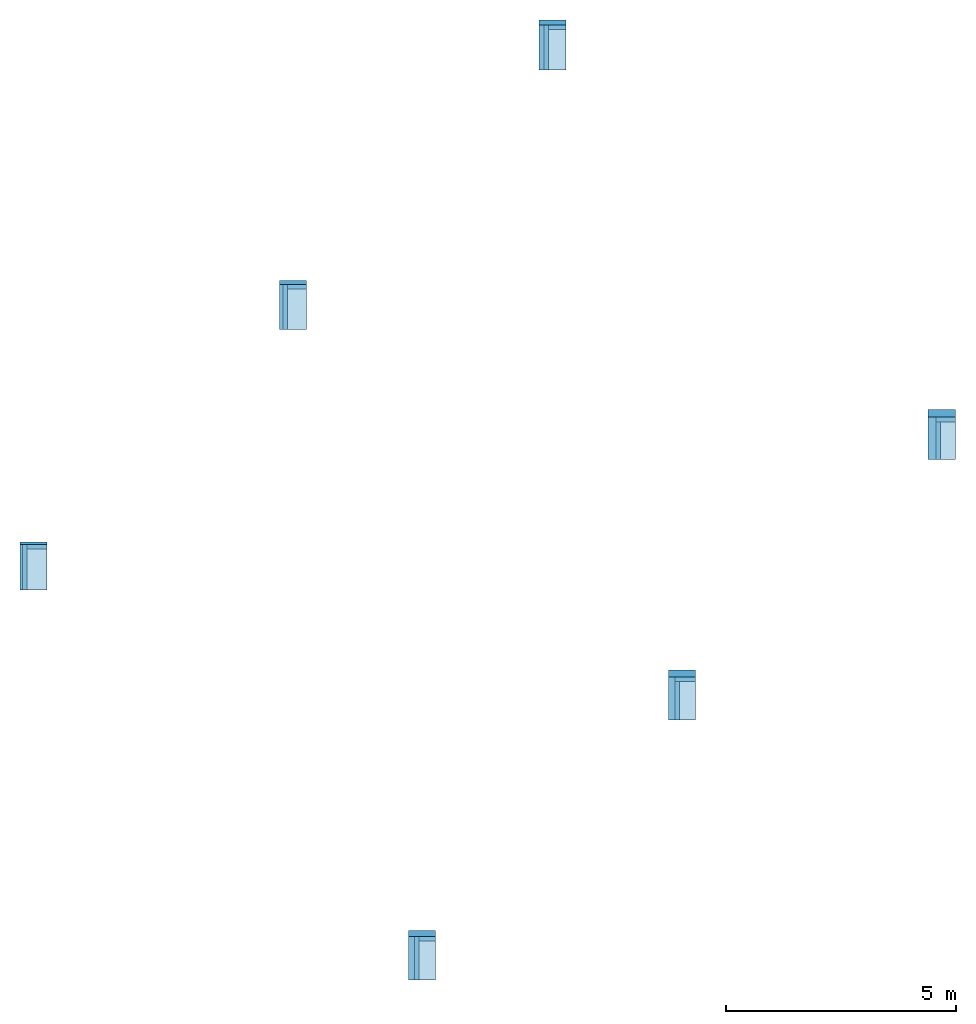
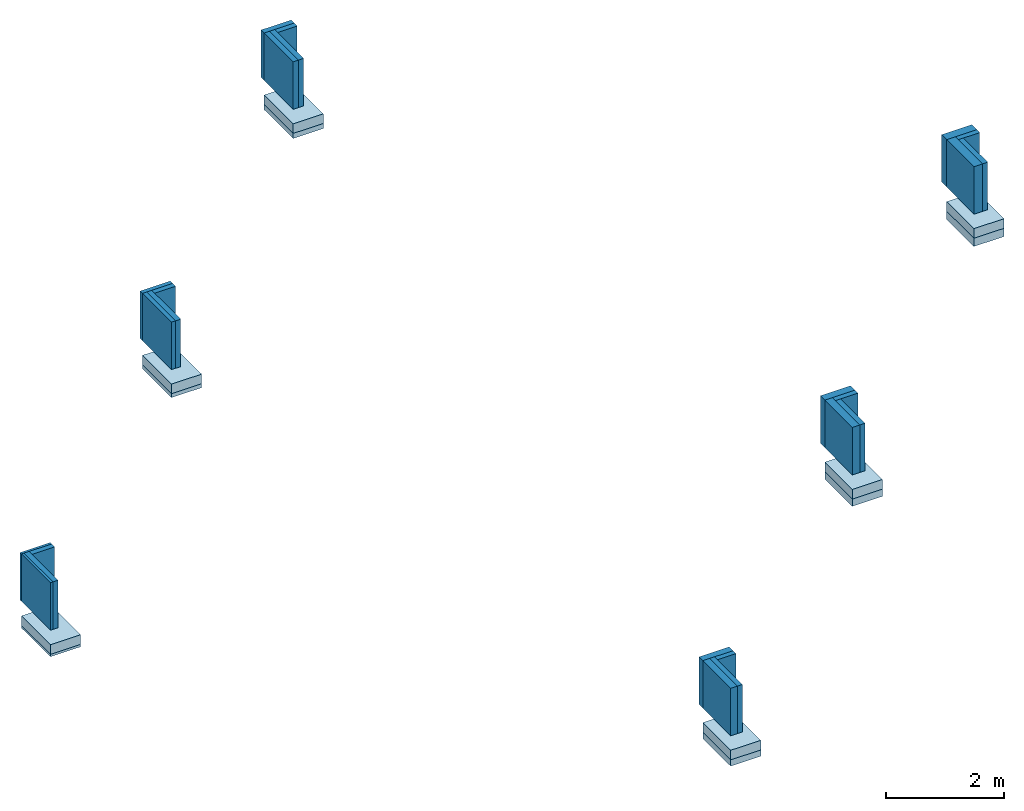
# One storey: 24 walls, 12 slabs.
"""IFC2X3 building model written with IfcOpenShell, lengths in millimetres."""

from ifc_helpers import new_model, entity, si_unit, converted_unit, derived_unit, direction, frame, frame_2d, origin, origin_2d_with_axis, place, context, subcontext, project, spatial, rectangle, extrude, material, layer, layer_set, layer_usage, type_object, element, save


model = new_model("IFC2X3")

# Units and contexts
model_context = context("Model", 3, precision=0.01, world=origin(), true_north=direction((6.12303176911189e-17, 1.0)))
context_of_model = context(None, 3, precision=0.01, world=origin(), true_north=direction((6.12303176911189e-17, 1.0)))
body_context = subcontext(model_context, "Body", "Model", "MODEL_VIEW")
ifc_project = project(units=[si_unit("LENGTHUNIT", "METRE", prefix="MILLI"), si_unit("AREAUNIT", "SQUARE_METRE"), si_unit("VOLUMEUNIT", "CUBIC_METRE"), converted_unit("PLANEANGLEUNIT", "DEGREE", entity("IfcRatioMeasure", 0.0174532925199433), si_unit("PLANEANGLEUNIT", "RADIAN"), dimensions=[0, 0, 0, 0, 0, 0, 0]), si_unit("MASSUNIT", "GRAM", prefix="KILO"), si_unit("TIMEUNIT", "SECOND"), si_unit("FREQUENCYUNIT", "HERTZ"), si_unit("THERMODYNAMICTEMPERATUREUNIT", "DEGREE_CELSIUS"), derived_unit("THERMALTRANSMITTANCEUNIT", [(si_unit("MASSUNIT", "GRAM", prefix="KILO"), 1), (si_unit("THERMODYNAMICTEMPERATUREUNIT", "KELVIN"), -1), (si_unit("TIMEUNIT", "SECOND"), -3)]), derived_unit("VOLUMETRICFLOWRATEUNIT", [(si_unit("LENGTHUNIT", "METRE"), 3), (si_unit("TIMEUNIT", "SECOND"), -1)]), si_unit("ELECTRICCURRENTUNIT", "AMPERE"), si_unit("ELECTRICVOLTAGEUNIT", "VOLT"), si_unit("POWERUNIT", "WATT"), si_unit("FORCEUNIT", "NEWTON", prefix="KILO"), si_unit("ILLUMINANCEUNIT", "LUX"), si_unit("LUMINOUSFLUXUNIT", "LUMEN"), si_unit("LUMINOUSINTENSITYUNIT", "CANDELA"), derived_unit("USERDEFINED", [(si_unit("MASSUNIT", "GRAM", prefix="KILO"), -1), (si_unit("LENGTHUNIT", "METRE"), -2), (si_unit("TIMEUNIT", "SECOND"), 3), (si_unit("LUMINOUSFLUXUNIT", "LUMEN"), 1)]), derived_unit("LINEARVELOCITYUNIT", [(si_unit("LENGTHUNIT", "METRE"), 1), (si_unit("TIMEUNIT", "SECOND"), -1)]), si_unit("PRESSUREUNIT", "PASCAL"), derived_unit("USERDEFINED", [(si_unit("LENGTHUNIT", "METRE"), -2), (si_unit("MASSUNIT", "GRAM", prefix="KILO"), 1), (si_unit("TIMEUNIT", "SECOND"), -2)])], contexts=[model_context, context_of_model])

# Site, building, storey
site_placement = place(None, origin())
site = spatial("IfcSite", under=ifc_project, at=site_placement, Name="Default", CompositionType="ELEMENT")
building_placement = place(site_placement, origin())
building = spatial("IfcBuilding", under=site, at=building_placement, CompositionType="ELEMENT")
storey_placement = place(building_placement, origin())
storey = spatial("IfcBuildingStorey", under=building, at=storey_placement, Name="00 begane grond", CompositionType="ELEMENT", Elevation=-2.77069864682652e-11)

# Slabs
ifc_material_1 = material(Name="Heraklith® | Herafoam - PIR (0,0215)")
ifc_layer_1 = layer(ifc_material_1, 40.0)
ifc_material_2 = material(Name="Heraklith® | Herafoam - Houtwollaag - 985x590mm")
ifc_layer_2 = layer(ifc_material_2, 10.0)
ifc_layer_set_1 = layer_set([ifc_layer_1, ifc_layer_2], Name="Floor:NLRS_23_FL_Heraklith Herafoam 50x985x590mm")
ifc_layer_usage_1 = layer_usage(ifc_layer_set_1, "AXIS3", "POSITIVE", 0.0)
slab_1_placement = place(storey_placement, origin())
element("IfcSlab", 1, at=slab_1_placement, inside=storey, material=ifc_layer_usage_1, Name="Floor:NLRS_23_FL_Heraklith Herafoam 50x985x590mm", ObjectType="Floor:NLRS_23_FL_Heraklith Herafoam 50x985x590mm", PredefinedType="FLOOR", context=body_context, shape_type="SweptSolid", body=[
    extrude(rectangle(XDim=985.0, YDim=590.0, at=origin_2d_with_axis()), frame((295.0, 492.499999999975, -500.0), z_axis=(0.0, 0.0, -1.0), x_axis=(0.0, 1.0, 0.0)), (0.0, 0.0, 1.0), 50.0),
])
ifc_material_3 = material(Name="Heraklith® | Herafoam - PIR (0,0222)")
ifc_layer_3 = layer(ifc_material_3, 30.0)
ifc_material_4 = material(Name="Heraklith® | Herafoam - PIR (0,0275)")
ifc_layer_4 = layer(ifc_material_4, 40.0)
ifc_layer_5 = layer(ifc_material_2, 10.0)
ifc_layer_set_2 = layer_set([ifc_layer_3, ifc_layer_4, ifc_layer_5], Name="Floor:NLRS_23_FL_Heraklith Herafoam 80x985x590mm")
ifc_layer_usage_2 = layer_usage(ifc_layer_set_2, "AXIS3", "POSITIVE", 0.0)
slab_2_placement = place(storey_placement, origin())
element("IfcSlab", 2, at=slab_2_placement, inside=storey, material=ifc_layer_usage_2, Name="Floor:NLRS_23_FL_Heraklith Herafoam 80x985x590mm", ObjectType="Floor:NLRS_23_FL_Heraklith Herafoam 80x985x590mm", PredefinedType="FLOOR", context=body_context, shape_type="SweptSolid", body=[
    extrude(rectangle(XDim=985.0, YDim=589.999999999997, at=frame_2d((5.6843418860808e-13, 1.08002495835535e-12), x_axis=(1.0, 0.0))), frame((5936.85424949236, 6149.35424949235, -500.0), z_axis=(0.0, 0.0, -1.0), x_axis=(0.0, 1.0, 0.0)), (0.0, 0.0, 1.0), 80.0),
])
ifc_layer_6 = layer(ifc_material_1, 55.0)
ifc_layer_7 = layer(ifc_material_4, 40.0)
ifc_layer_8 = layer(ifc_material_2, 10.0)
ifc_layer_set_3 = layer_set([ifc_layer_6, ifc_layer_7, ifc_layer_8], Name="Floor:NLRS_23_FL_Heraklith Herafoam 105x985x590mm")
ifc_layer_usage_3 = layer_usage(ifc_layer_set_3, "AXIS3", "POSITIVE", 0.0)
slab_3_placement = place(storey_placement, origin())
element("IfcSlab", 3, at=slab_3_placement, inside=storey, material=ifc_layer_usage_3, Name="Floor:NLRS_23_FL_Heraklith Herafoam 105x985x590mm", ObjectType="Floor:NLRS_23_FL_Heraklith Herafoam 105x985x590mm", PredefinedType="FLOOR", context=body_context, shape_type="SweptSolid", body=[
    extrude(rectangle(XDim=985.000000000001, YDim=590.0, at=origin_2d_with_axis()), frame((11581.2084989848, 11793.7084989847, -500.0), z_axis=(0.0, 0.0, -1.0), x_axis=(0.0, 1.0, 0.0)), (0.0, 0.0, 1.0), 105.0),
])
ifc_layer_9 = layer(ifc_material_1, 80.0)
ifc_layer_10 = layer(ifc_material_4, 40.0)
ifc_layer_11 = layer(ifc_material_2, 10.0)
ifc_layer_set_4 = layer_set([ifc_layer_9, ifc_layer_10, ifc_layer_11], Name="Floor:NLRS_23_FL_Heraklith Herafoam 130x985x590mm")
ifc_layer_usage_4 = layer_usage(ifc_layer_set_4, "AXIS3", "POSITIVE", 0.0)
slab_4_placement = place(storey_placement, origin())
element("IfcSlab", 4, at=slab_4_placement, inside=storey, material=ifc_layer_usage_4, Name="Floor:NLRS_23_FL_Heraklith Herafoam 130x985x590mm", ObjectType="Floor:NLRS_23_FL_Heraklith Herafoam 130x985x590mm", PredefinedType="FLOOR", context=body_context, shape_type="SweptSolid", body=[
    extrude(rectangle(XDim=945.000000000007, YDim=590.0, at=frame_2d((-5.40012479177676e-13, 0.0), x_axis=(1.0, 0.0))), frame((8740.28137423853, -8012.78137423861, -500.0), z_axis=(0.0, 0.0, -1.0), x_axis=(0.0, 1.0, 0.0)), (0.0, 0.0, 1.0), 130.0),
])
ifc_layer_12 = layer(ifc_material_1, 100.0)
ifc_layer_13 = layer(ifc_material_4, 40.0)
ifc_layer_14 = layer(ifc_material_2, 10.0)
ifc_layer_set_5 = layer_set([ifc_layer_12, ifc_layer_13, ifc_layer_14], Name="Floor:NLRS_23_FL_Heraklith Herafoam 150x985x590mm")
ifc_layer_usage_5 = layer_usage(ifc_layer_set_5, "AXIS3", "POSITIVE", 0.0)
slab_5_placement = place(storey_placement, origin())
element("IfcSlab", 5, at=slab_5_placement, inside=storey, material=ifc_layer_usage_5, Name="Floor:NLRS_23_FL_Heraklith Herafoam 150x985x590mm", ObjectType="Floor:NLRS_23_FL_Heraklith Herafoam 150x985x590mm", PredefinedType="FLOOR", context=body_context, shape_type="SweptSolid", body=[
    extrude(rectangle(XDim=935.000000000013, YDim=590.0, at=frame_2d((1.13686837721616e-13, -2.1600499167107e-12), x_axis=(1.0, 0.0))), frame((14392.1356237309, -2360.92712474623, -500.0), z_axis=(0.0, 0.0, -1.0), x_axis=(0.0, 1.0, 0.0)), (0.0, 0.0, 1.0), 150.0),
])
ifc_layer_15 = layer(ifc_material_1, 120.0)
ifc_layer_16 = layer(ifc_material_4, 40.0)
ifc_layer_17 = layer(ifc_material_2, 10.0)
ifc_layer_set_6 = layer_set([ifc_layer_15, ifc_layer_16, ifc_layer_17], Name="Floor:NLRS_23_FL_Heraklith Herafoam 170x985x590mm")
ifc_layer_usage_6 = layer_usage(ifc_layer_set_6, "AXIS3", "POSITIVE", 0.0)
slab_6_placement = place(storey_placement, origin())
element("IfcSlab", 6, at=slab_6_placement, inside=storey, material=ifc_layer_usage_6, Name="Floor:NLRS_23_FL_Heraklith Herafoam 170x985x590mm", ObjectType="Floor:NLRS_23_FL_Heraklith Herafoam 170x985x590mm", PredefinedType="FLOOR", context=body_context, shape_type="SweptSolid", body=[
    extrude(rectangle(XDim=925.000000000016, YDim=589.999999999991, at=frame_2d((0.0, 2.1600499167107e-12), x_axis=(1.0, 0.0))), frame((20043.9898732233, 3290.92712474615, -500.0), z_axis=(0.0, 0.0, -1.0), x_axis=(0.0, 1.0, 0.0)), (0.0, 0.0, 1.0), 170.0),
])
ifc_material_5 = material(Name="Concrete, Precast Panels")
ifc_layer_18 = layer(ifc_material_5, 200.0)
ifc_layer_set_7 = layer_set([ifc_layer_18], Name="Floor:Generic 200mm")
ifc_layer_usage_7 = layer_usage(ifc_layer_set_7, "AXIS3", "POSITIVE", 0.0)
slab_7_placement = place(storey_placement, origin())
element("IfcSlab", 7, at=slab_7_placement, inside=storey, material=ifc_layer_usage_7, Name="Floor:Generic 200mm", ObjectType="Floor:Generic 200mm", PredefinedType="FLOOR", context=body_context, shape_type="SweptSolid", body=[
    extrude(rectangle(XDim=985.0, YDim=590.0, at=origin_2d_with_axis()), frame((295.0, 492.499999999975, -300.0), z_axis=(0.0, 0.0, -1.0), x_axis=(0.0, 1.0, 0.0)), (0.0, 0.0, 1.0), 200.0),
])
ifc_layer_usage_8 = layer_usage(ifc_layer_set_7, "AXIS3", "POSITIVE", 0.0)
slab_8_placement = place(storey_placement, origin())
element("IfcSlab", 8, at=slab_8_placement, inside=storey, material=ifc_layer_usage_8, Name="Floor:Generic 200mm", ObjectType="Floor:Generic 200mm", PredefinedType="FLOOR", context=body_context, shape_type="SweptSolid", body=[
    extrude(rectangle(XDim=985.0, YDim=589.999999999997, at=frame_2d((5.6843418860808e-13, -5.40012479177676e-13), x_axis=(1.0, 0.0))), frame((5936.85424949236, 6149.35424949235, -300.0), z_axis=(0.0, 0.0, -1.0), x_axis=(0.0, 1.0, 0.0)), (0.0, 0.0, 1.0), 200.0),
])
ifc_layer_usage_9 = layer_usage(ifc_layer_set_7, "AXIS3", "POSITIVE", 0.0)
slab_9_placement = place(storey_placement, origin())
element("IfcSlab", 9, at=slab_9_placement, inside=storey, material=ifc_layer_usage_9, Name="Floor:Generic 200mm", ObjectType="Floor:Generic 200mm", PredefinedType="FLOOR", context=body_context, shape_type="SweptSolid", body=[
    extrude(rectangle(XDim=985.000000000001, YDim=590.0, at=origin_2d_with_axis()), frame((11581.2084989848, 11793.7084989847, -300.0), z_axis=(0.0, 0.0, -1.0), x_axis=(0.0, 1.0, 0.0)), (0.0, 0.0, 1.0), 200.0),
])
ifc_layer_usage_10 = layer_usage(ifc_layer_set_7, "AXIS3", "POSITIVE", 0.0)
slab_10_placement = place(storey_placement, origin())
element("IfcSlab", 10, at=slab_10_placement, inside=storey, material=ifc_layer_usage_10, Name="Floor:Generic 200mm", ObjectType="Floor:Generic 200mm", PredefinedType="FLOOR", context=body_context, shape_type="SweptSolid", body=[
    extrude(rectangle(XDim=925.000000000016, YDim=589.999999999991, at=frame_2d((0.0, -2.1600499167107e-12), x_axis=(1.0, 0.0))), frame((20043.9898732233, 3290.92712474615, -300.0), z_axis=(0.0, 0.0, -1.0), x_axis=(0.0, 1.0, 0.0)), (0.0, 0.0, 1.0), 200.0),
])
ifc_layer_usage_11 = layer_usage(ifc_layer_set_7, "AXIS3", "POSITIVE", 0.0)
slab_11_placement = place(storey_placement, origin())
element("IfcSlab", 11, at=slab_11_placement, inside=storey, material=ifc_layer_usage_11, Name="Floor:Generic 200mm", ObjectType="Floor:Generic 200mm", PredefinedType="FLOOR", context=body_context, shape_type="SweptSolid", body=[
    extrude(rectangle(XDim=935.000000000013, YDim=590.0, at=frame_2d((1.13686837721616e-13, -2.1600499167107e-12), x_axis=(1.0, 0.0))), frame((14392.1356237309, -2360.92712474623, -300.0), z_axis=(0.0, 0.0, -1.0), x_axis=(0.0, 1.0, 0.0)), (0.0, 0.0, 1.0), 200.0),
])
ifc_layer_usage_12 = layer_usage(ifc_layer_set_7, "AXIS3", "POSITIVE", 0.0)
slab_12_placement = place(storey_placement, origin())
element("IfcSlab", 12, at=slab_12_placement, inside=storey, material=ifc_layer_usage_12, Name="Floor:Generic 200mm", ObjectType="Floor:Generic 200mm", PredefinedType="FLOOR", context=body_context, shape_type="SweptSolid", body=[
    extrude(rectangle(XDim=945.000000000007, YDim=590.0, at=frame_2d((-5.40012479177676e-13, 0.0), x_axis=(1.0, 0.0))), frame((8740.28137423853, -8012.78137423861, -300.0), z_axis=(0.0, 0.0, -1.0), x_axis=(0.0, 1.0, 0.0)), (0.0, 0.0, 1.0), 200.0),
])

# Walls
ifc_layer_19 = layer(ifc_material_4, 40.0)
ifc_layer_20 = layer(ifc_material_2, 10.0)
ifc_layer_set_8 = layer_set([ifc_layer_19, ifc_layer_20], Name="Basic Wall:NLRS_42_WA_Heraklith Herafoam 50x985x590mm")
ifc_layer_usage_13 = layer_usage(ifc_layer_set_8, "AXIS2", "NEGATIVE", 25.0)
wall_type_1 = type_object("IfcWallType", Name="Basic Wall:NLRS_42_WA_Heraklith Herafoam 50x985x590mm", PredefinedType="STANDARD", material=ifc_layer_set_8)
wall_1_placement = place(storey_placement, frame((25.0, 985.0, 0.0), z_axis=(0.0, 0.0, 1.0), x_axis=(0.0, -1.0, 0.0)))
element("IfcWallStandardCase", 13, at=wall_1_placement, inside=storey, type_object=wall_type_1, material=ifc_layer_usage_13, Name="Basic Wall:NLRS_42_WA_Heraklith Herafoam 50x985x590mm", ObjectType="Basic Wall:NLRS_42_WA_Heraklith Herafoam 50x985x590mm", context=body_context, shape_type="SweptSolid", body=[
    extrude(rectangle(XDim=985.000000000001, YDim=50.0, at=frame_2d((492.5, 1.77635683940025e-15), x_axis=(-1.0, 0.0))), origin(), (0.0, 0.0, 1.0), 985.000000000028),
])
ifc_layer_21 = layer(ifc_material_4, 40.0)
ifc_layer_22 = layer(ifc_material_2, 10.0)
ifc_layer_set_9 = layer_set([ifc_layer_21, ifc_layer_22], Name="Basic Wall:NLRS_41_WA_Heraklith Herafoam 50x985x590mm")
ifc_layer_usage_14 = layer_usage(ifc_layer_set_9, "AXIS2", "POSITIVE", -25.0)
wall_type_2 = type_object("IfcWallType", Name="Basic Wall:NLRS_41_WA_Heraklith Herafoam 50x985x590mm", PredefinedType="STANDARD", material=ifc_layer_set_9)
wall_2_placement = place(storey_placement, frame((0.0, 1010.0, 0.0)))
element("IfcWallStandardCase", 14, at=wall_2_placement, inside=storey, type_object=wall_type_2, material=ifc_layer_usage_14, Name="Basic Wall:NLRS_41_WA_Heraklith Herafoam 50x985x590mm", ObjectType="Basic Wall:NLRS_41_WA_Heraklith Herafoam 50x985x590mm", context=body_context, shape_type="SweptSolid", body=[
    extrude(rectangle(XDim=590.000000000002, YDim=50.0, at=frame_2d((295.000000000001, -1.59872115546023e-14), x_axis=(-1.0, 0.0))), origin(), (0.0, 0.0, 1.0), 985.000000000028),
])
ifc_layer_23 = layer(ifc_material_3, 30.0)
ifc_layer_24 = layer(ifc_material_4, 40.0)
ifc_layer_25 = layer(ifc_material_2, 10.0)
ifc_layer_set_10 = layer_set([ifc_layer_23, ifc_layer_24, ifc_layer_25], Name="Basic Wall:NLRS_42_WA_Heraklith Herafoam 80x985x590mm")
ifc_layer_usage_15 = layer_usage(ifc_layer_set_10, "AXIS2", "NEGATIVE", 40.0)
wall_type_3 = type_object("IfcWallType", Name="Basic Wall:NLRS_42_WA_Heraklith Herafoam 80x985x590mm", PredefinedType="STANDARD", material=ifc_layer_set_10)
wall_3_placement = place(storey_placement, frame((5681.85424949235, 6641.85424949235, 0.0), z_axis=(0.0, 0.0, 1.0), x_axis=(0.0, -1.0, 0.0)))
element("IfcWallStandardCase", 15, at=wall_3_placement, inside=storey, type_object=wall_type_3, material=ifc_layer_usage_15, Name="Basic Wall:NLRS_42_WA_Heraklith Herafoam 80x985x590mm", ObjectType="Basic Wall:NLRS_42_WA_Heraklith Herafoam 80x985x590mm", context=body_context, shape_type="SweptSolid", body=[
    extrude(rectangle(XDim=985.000000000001, YDim=79.9999999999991, at=frame_2d((492.500000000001, 2.52242671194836e-13), x_axis=(-1.0, 0.0))), origin(), (0.0, 0.0, 1.0), 985.000000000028),
])
ifc_layer_26 = layer(ifc_material_3, 30.0)
ifc_layer_27 = layer(ifc_material_4, 40.0)
ifc_layer_28 = layer(ifc_material_2, 10.0)
ifc_layer_set_11 = layer_set([ifc_layer_26, ifc_layer_27, ifc_layer_28], Name="Basic Wall:NLRS_41_WA_Heraklith Herafoam 80x985x590mm")
ifc_layer_usage_16 = layer_usage(ifc_layer_set_11, "AXIS2", "POSITIVE", -40.0)
wall_type_4 = type_object("IfcWallType", Name="Basic Wall:NLRS_41_WA_Heraklith Herafoam 80x985x590mm", PredefinedType="STANDARD", material=ifc_layer_set_11)
wall_4_placement = place(storey_placement, frame((5641.85424949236, 6681.85424949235, 0.0)))
element("IfcWallStandardCase", 16, at=wall_4_placement, inside=storey, type_object=wall_type_4, material=ifc_layer_usage_16, Name="Basic Wall:NLRS_41_WA_Heraklith Herafoam 80x985x590mm", ObjectType="Basic Wall:NLRS_41_WA_Heraklith Herafoam 80x985x590mm", context=body_context, shape_type="SweptSolid", body=[
    extrude(rectangle(XDim=590.000000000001, YDim=79.9999999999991, at=frame_2d((295.000000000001, 4.58300064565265e-13), x_axis=(-1.0, 0.0))), origin(), (0.0, 0.0, 1.0), 985.000000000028),
])
ifc_layer_29 = layer(ifc_material_1, 55.0)
ifc_layer_30 = layer(ifc_material_4, 40.0)
ifc_layer_31 = layer(ifc_material_2, 10.0)
ifc_layer_set_12 = layer_set([ifc_layer_29, ifc_layer_30, ifc_layer_31], Name="Basic Wall:NLRS_42_WA_Heraklith Herafoam 105x985x590mm")
ifc_layer_usage_17 = layer_usage(ifc_layer_set_12, "AXIS2", "NEGATIVE", 52.5)
wall_type_5 = type_object("IfcWallType", Name="Basic Wall:NLRS_42_WA_Heraklith Herafoam 105x985x590mm", PredefinedType="STANDARD", material=ifc_layer_set_12)
wall_5_placement = place(storey_placement, frame((11338.7084989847, 12286.2084989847, 0.0), z_axis=(0.0, 0.0, 1.0), x_axis=(0.0, -1.0, 0.0)))
element("IfcWallStandardCase", 17, at=wall_5_placement, inside=storey, type_object=wall_type_5, material=ifc_layer_usage_17, Name="Basic Wall:NLRS_42_WA_Heraklith Herafoam 105x985x590mm", ObjectType="Basic Wall:NLRS_42_WA_Heraklith Herafoam 105x985x590mm", context=body_context, shape_type="SweptSolid", body=[
    extrude(rectangle(XDim=985.000000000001, YDim=105.000000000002, at=frame_2d((492.500000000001, -2.91322521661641e-13), x_axis=(-1.0, 0.0))), origin(), (0.0, 0.0, 1.0), 985.000000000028),
])
ifc_layer_32 = layer(ifc_material_1, 55.0)
ifc_layer_33 = layer(ifc_material_4, 40.0)
ifc_layer_34 = layer(ifc_material_2, 10.0)
ifc_layer_set_13 = layer_set([ifc_layer_32, ifc_layer_33, ifc_layer_34], Name="Basic Wall:NLRS_41_WA_Heraklith Herafoam 105x985x590mm")
ifc_layer_usage_18 = layer_usage(ifc_layer_set_13, "AXIS2", "POSITIVE", -52.5)
wall_type_6 = type_object("IfcWallType", Name="Basic Wall:NLRS_41_WA_Heraklith Herafoam 105x985x590mm", PredefinedType="STANDARD", material=ifc_layer_set_13)
wall_6_placement = place(storey_placement, frame((11286.2084989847, 12338.7084989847, 0.0)))
element("IfcWallStandardCase", 18, at=wall_6_placement, inside=storey, type_object=wall_type_6, material=ifc_layer_usage_18, Name="Basic Wall:NLRS_41_WA_Heraklith Herafoam 105x985x590mm", ObjectType="Basic Wall:NLRS_41_WA_Heraklith Herafoam 105x985x590mm", context=body_context, shape_type="SweptSolid", body=[
    extrude(rectangle(XDim=590.0, YDim=105.000000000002, at=frame_2d((295.0, -8.5265128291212e-14), x_axis=(-1.0, 0.0))), origin(), (0.0, 0.0, 1.0), 985.000000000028),
])
ifc_layer_35 = layer(ifc_material_1, 80.0)
ifc_layer_36 = layer(ifc_material_4, 40.0)
ifc_layer_37 = layer(ifc_material_2, 10.0)
ifc_layer_set_14 = layer_set([ifc_layer_35, ifc_layer_36, ifc_layer_37], Name="Basic Wall:NLRS_42_WA_Heraklith Herafoam 130x985x590mm")
ifc_layer_usage_19 = layer_usage(ifc_layer_set_14, "AXIS2", "NEGATIVE", 65.0)
wall_type_7 = type_object("IfcWallType", Name="Basic Wall:NLRS_42_WA_Heraklith Herafoam 130x985x590mm", PredefinedType="STANDARD", material=ifc_layer_set_14)
wall_7_placement = place(storey_placement, frame((8510.28137423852, -7540.28137423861, 0.0), z_axis=(0.0, 0.0, 1.0), x_axis=(0.0, -1.0, 0.0)))
element("IfcWallStandardCase", 19, at=wall_7_placement, inside=storey, type_object=wall_type_7, material=ifc_layer_usage_19, Name="Basic Wall:NLRS_42_WA_Heraklith Herafoam 130x985x590mm", ObjectType="Basic Wall:NLRS_42_WA_Heraklith Herafoam 130x985x590mm", context=body_context, shape_type="SweptSolid", body=[
    extrude(rectangle(XDim=945.000000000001, YDim=130.000000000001, at=frame_2d((472.5, 2.20268248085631e-13), x_axis=(-1.0, 0.0))), origin(), (0.0, 0.0, 1.0), 985.000000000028),
])
ifc_layer_38 = layer(ifc_material_1, 80.0)
ifc_layer_39 = layer(ifc_material_4, 40.0)
ifc_layer_40 = layer(ifc_material_2, 10.0)
ifc_layer_set_15 = layer_set([ifc_layer_38, ifc_layer_39, ifc_layer_40], Name="Basic Wall:NLRS_41_WA_Heraklith Herafoam 130x985x590mm")
ifc_layer_usage_20 = layer_usage(ifc_layer_set_15, "AXIS2", "POSITIVE", -65.0)
wall_type_8 = type_object("IfcWallType", Name="Basic Wall:NLRS_41_WA_Heraklith Herafoam 130x985x590mm", PredefinedType="STANDARD", material=ifc_layer_set_15)
wall_8_placement = place(storey_placement, frame((8445.28137423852, -7475.28137423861, 0.0)))
element("IfcWallStandardCase", 20, at=wall_8_placement, inside=storey, type_object=wall_type_8, material=ifc_layer_usage_20, Name="Basic Wall:NLRS_41_WA_Heraklith Herafoam 130x985x590mm", ObjectType="Basic Wall:NLRS_41_WA_Heraklith Herafoam 130x985x590mm", context=body_context, shape_type="SweptSolid", body=[
    extrude(rectangle(XDim=590.0, YDim=130.000000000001, at=frame_2d((295.0, 3.5527136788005e-14), x_axis=(-1.0, 0.0))), origin(), (0.0, 0.0, 1.0), 985.000000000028),
])
ifc_layer_41 = layer(ifc_material_1, 100.0)
ifc_layer_42 = layer(ifc_material_4, 40.0)
ifc_layer_43 = layer(ifc_material_2, 10.0)
ifc_layer_set_16 = layer_set([ifc_layer_41, ifc_layer_42, ifc_layer_43], Name="Basic Wall:NLRS_41_WA_Heraklith Herafoam 150x985x590mm")
ifc_layer_usage_21 = layer_usage(ifc_layer_set_16, "AXIS2", "POSITIVE", -75.0)
wall_type_9 = type_object("IfcWallType", Name="Basic Wall:NLRS_41_WA_Heraklith Herafoam 150x985x590mm", PredefinedType="STANDARD", material=ifc_layer_set_16)
wall_9_placement = place(storey_placement, frame((14097.1356237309, -1818.42712474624, 0.0)))
element("IfcWallStandardCase", 21, at=wall_9_placement, inside=storey, type_object=wall_type_9, material=ifc_layer_usage_21, Name="Basic Wall:NLRS_41_WA_Heraklith Herafoam 150x985x590mm", ObjectType="Basic Wall:NLRS_41_WA_Heraklith Herafoam 150x985x590mm", context=body_context, shape_type="SweptSolid", body=[
    extrude(rectangle(XDim=590.0, YDim=150.0, at=frame_2d((295.0, 1.4210854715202e-14), x_axis=(-1.0, 0.0))), origin(), (0.0, 0.0, 1.0), 985.000000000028),
])
ifc_layer_44 = layer(ifc_material_1, 100.0)
ifc_layer_45 = layer(ifc_material_4, 40.0)
ifc_layer_46 = layer(ifc_material_2, 10.0)
ifc_layer_set_17 = layer_set([ifc_layer_44, ifc_layer_45, ifc_layer_46], Name="Basic Wall:NLRS_42_WA_Heraklith Herafoam 150x985x590mm")
ifc_layer_usage_22 = layer_usage(ifc_layer_set_17, "AXIS2", "NEGATIVE", 75.0)
wall_type_10 = type_object("IfcWallType", Name="Basic Wall:NLRS_42_WA_Heraklith Herafoam 150x985x590mm", PredefinedType="STANDARD", material=ifc_layer_set_17)
wall_10_placement = place(storey_placement, frame((14172.1356237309, -1893.42712474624, 0.0), z_axis=(0.0, 0.0, 1.0), x_axis=(0.0, -1.0, 0.0)))
element("IfcWallStandardCase", 22, at=wall_10_placement, inside=storey, type_object=wall_type_10, material=ifc_layer_usage_22, Name="Basic Wall:NLRS_42_WA_Heraklith Herafoam 150x985x590mm", ObjectType="Basic Wall:NLRS_42_WA_Heraklith Herafoam 150x985x590mm", context=body_context, shape_type="SweptSolid", body=[
    extrude(rectangle(XDim=934.999999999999, YDim=150.000000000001, at=frame_2d((467.5, -3.26849658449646e-13), x_axis=(-1.0, 0.0))), origin(), (0.0, 0.0, 1.0), 985.000000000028),
])
ifc_layer_47 = layer(ifc_material_1, 120.0)
ifc_layer_48 = layer(ifc_material_4, 40.0)
ifc_layer_49 = layer(ifc_material_2, 10.0)
ifc_layer_set_18 = layer_set([ifc_layer_47, ifc_layer_48, ifc_layer_49], Name="Basic Wall:NLRS_41_WA_Heraklith Herafoam 170x985x590mm")
ifc_layer_usage_23 = layer_usage(ifc_layer_set_18, "AXIS2", "POSITIVE", -85.0)
wall_type_11 = type_object("IfcWallType", Name="Basic Wall:NLRS_41_WA_Heraklith Herafoam 170x985x590mm", PredefinedType="STANDARD", material=ifc_layer_set_18)
wall_11_placement = place(storey_placement, frame((19748.9898732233, 3838.42712474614, 1.46014113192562)))
element("IfcWallStandardCase", 23, at=wall_11_placement, inside=storey, type_object=wall_type_11, material=ifc_layer_usage_23, Name="Basic Wall:NLRS_41_WA_Heraklith Herafoam 170x985x590mm", ObjectType="Basic Wall:NLRS_41_WA_Heraklith Herafoam 170x985x590mm", context=body_context, shape_type="SweptSolid", body=[
    extrude(rectangle(XDim=590.0, YDim=170.0, at=frame_2d((295.0, 7.105427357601e-15), x_axis=(-1.0, 0.0))), origin(), (0.0, 0.0, 1.0), 983.539858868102),
])
ifc_layer_50 = layer(ifc_material_1, 120.0)
ifc_layer_51 = layer(ifc_material_4, 40.0)
ifc_layer_52 = layer(ifc_material_2, 10.0)
ifc_layer_set_19 = layer_set([ifc_layer_50, ifc_layer_51, ifc_layer_52], Name="Basic Wall:NLRS_42_WA_Heraklith Herafoam 170x985x590mm")
ifc_layer_usage_24 = layer_usage(ifc_layer_set_19, "AXIS2", "NEGATIVE", 85.0)
wall_type_12 = type_object("IfcWallType", Name="Basic Wall:NLRS_42_WA_Heraklith Herafoam 170x985x590mm", PredefinedType="STANDARD", material=ifc_layer_set_19)
wall_12_placement = place(storey_placement, frame((19833.9898732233, 3753.42712474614, 0.0), z_axis=(0.0, 0.0, 1.0), x_axis=(0.0, -1.0, 0.0)))
element("IfcWallStandardCase", 24, at=wall_12_placement, inside=storey, type_object=wall_type_12, material=ifc_layer_usage_24, Name="Basic Wall:NLRS_42_WA_Heraklith Herafoam 170x985x590mm", ObjectType="Basic Wall:NLRS_42_WA_Heraklith Herafoam 170x985x590mm", context=body_context, shape_type="SweptSolid", body=[
    extrude(rectangle(XDim=924.999999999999, YDim=169.999999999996, at=frame_2d((462.5, -1.4210854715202e-12), x_axis=(-1.0, 0.0))), origin(), (0.0, 0.0, 1.0), 985.000000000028),
])
ifc_layer_53 = layer(ifc_material_5, 100.0)
ifc_layer_set_20 = layer_set([ifc_layer_53], Name="Basic Wall:Generic_100mm")
ifc_layer_usage_25 = layer_usage(ifc_layer_set_20, "AXIS2", "NEGATIVE", 50.0)
wall_type_13 = type_object("IfcWallType", Name="Basic Wall:Generic_100mm", PredefinedType="STANDARD", material=ifc_layer_set_20)
wall_13_placement = place(storey_placement, frame((100.0, 0.0, 0.0), z_axis=(0.0, 0.0, 1.0), x_axis=(0.0, 1.0, 0.0)))
element("IfcWallStandardCase", 25, at=wall_13_placement, inside=storey, type_object=wall_type_13, material=ifc_layer_usage_25, Name="Basic Wall:Generic_100mm", ObjectType="Basic Wall:Generic_100mm", context=body_context, shape_type="SweptSolid", body=[
    extrude(rectangle(XDim=985.000000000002, YDim=100.0, at=frame_2d((492.500000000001, 7.105427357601e-15), x_axis=(-1.0, 0.0))), origin(), (0.0, 0.0, 1.0), 985.000000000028),
])
ifc_layer_usage_26 = layer_usage(ifc_layer_set_20, "AXIS2", "POSITIVE", -50.0)
wall_14_placement = place(storey_placement, frame((590.0, 935.0, 0.0), z_axis=(0.0, 0.0, 1.0), x_axis=(-1.0, 0.0, 0.0)))
element("IfcWallStandardCase", 26, at=wall_14_placement, inside=storey, type_object=wall_type_13, material=ifc_layer_usage_26, Name="Basic Wall:Generic_100mm", ObjectType="Basic Wall:Generic_100mm", context=body_context, shape_type="SweptSolid", body=[
    extrude(rectangle(XDim=439.999999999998, YDim=100.0, at=frame_2d((219.999999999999, -1.4210854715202e-14), x_axis=(-1.0, 0.0))), origin(), (0.0, 0.0, 1.0), 985.000000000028),
])
ifc_layer_usage_27 = layer_usage(ifc_layer_set_20, "AXIS2", "NEGATIVE", 50.0)
wall_15_placement = place(storey_placement, frame((5771.85424949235, 5656.85424949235, 0.0), z_axis=(0.0, 0.0, 1.0), x_axis=(0.0, 1.0, 0.0)))
element("IfcWallStandardCase", 27, at=wall_15_placement, inside=storey, type_object=wall_type_13, material=ifc_layer_usage_27, Name="Basic Wall:Generic_100mm", ObjectType="Basic Wall:Generic_100mm", context=body_context, shape_type="SweptSolid", body=[
    extrude(rectangle(XDim=985.000000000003, YDim=99.9999999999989, at=frame_2d((492.500000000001, 3.19744231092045e-14), x_axis=(-1.0, 0.0))), origin(), (0.0, 0.0, 1.0), 985.000000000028),
])
ifc_layer_usage_28 = layer_usage(ifc_layer_set_20, "AXIS2", "POSITIVE", -50.0)
wall_16_placement = place(storey_placement, frame((6231.85424949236, 6591.85424949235, 0.0), z_axis=(0.0, 0.0, 1.0), x_axis=(-1.0, 0.0, 0.0)))
element("IfcWallStandardCase", 28, at=wall_16_placement, inside=storey, type_object=wall_type_13, material=ifc_layer_usage_28, Name="Basic Wall:Generic_100mm", ObjectType="Basic Wall:Generic_100mm", context=body_context, shape_type="SweptSolid", body=[
    extrude(rectangle(XDim=410.000000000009, YDim=99.9999999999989, at=frame_2d((205.000000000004, 0.0), x_axis=(-1.0, 0.0))), origin(), (0.0, 0.0, 1.0), 985.000000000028),
])
ifc_layer_usage_29 = layer_usage(ifc_layer_set_20, "AXIS2", "NEGATIVE", 50.0)
wall_17_placement = place(storey_placement, frame((11441.2084989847, 11301.2084989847, 0.0), z_axis=(0.0, 0.0, 1.0), x_axis=(0.0, 1.0, 0.0)))
element("IfcWallStandardCase", 29, at=wall_17_placement, inside=storey, type_object=wall_type_13, material=ifc_layer_usage_29, Name="Basic Wall:Generic_100mm", ObjectType="Basic Wall:Generic_100mm", context=body_context, shape_type="SweptSolid", body=[
    extrude(rectangle(XDim=985.000000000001, YDim=99.9999999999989, at=frame_2d((492.500000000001, 7.8159700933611e-14), x_axis=(-1.0, 0.0))), origin(), (0.0, 0.0, 1.0), 985.000000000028),
])
ifc_layer_usage_30 = layer_usage(ifc_layer_set_20, "AXIS2", "POSITIVE", -50.0)
wall_18_placement = place(storey_placement, frame((11876.2084989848, 12236.2084989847, 0.0), z_axis=(0.0, 0.0, 1.0), x_axis=(-1.0, 0.0, 0.0)))
element("IfcWallStandardCase", 30, at=wall_18_placement, inside=storey, type_object=wall_type_13, material=ifc_layer_usage_30, Name="Basic Wall:Generic_100mm", ObjectType="Basic Wall:Generic_100mm", context=body_context, shape_type="SweptSolid", body=[
    extrude(rectangle(XDim=385.000000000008, YDim=99.9999999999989, at=frame_2d((192.500000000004, 0.0), x_axis=(-1.0, 0.0))), origin(), (0.0, 0.0, 1.0), 985.000000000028),
])
ifc_layer_usage_31 = layer_usage(ifc_layer_set_20, "AXIS2", "NEGATIVE", 50.0)
wall_19_placement = place(storey_placement, frame((19968.9898732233, 2828.42712474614, 0.0), z_axis=(0.0, 0.0, 1.0), x_axis=(0.0, 1.0, 0.0)))
element("IfcWallStandardCase", 31, at=wall_19_placement, inside=storey, type_object=wall_type_13, material=ifc_layer_usage_31, Name="Basic Wall:Generic_100mm", ObjectType="Basic Wall:Generic_100mm", context=body_context, shape_type="SweptSolid", body=[
    extrude(rectangle(XDim=825.000000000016, YDim=100.000000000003, at=frame_2d((412.500000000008, -2.1316282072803e-14), x_axis=(-1.0, 0.0))), origin(), (0.0, 0.0, 1.0), 985.000000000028),
])
ifc_layer_usage_32 = layer_usage(ifc_layer_set_20, "AXIS2", "NEGATIVE", 50.0)
wall_20_placement = place(storey_placement, frame((19918.9898732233, 3703.42712474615, 0.0)))
element("IfcWallStandardCase", 32, at=wall_20_placement, inside=storey, type_object=wall_type_13, material=ifc_layer_usage_32, Name="Basic Wall:Generic_100mm", ObjectType="Basic Wall:Generic_100mm", context=body_context, shape_type="SweptSolid", body=[
    extrude(rectangle(XDim=420.0, YDim=100.0, at=frame_2d((210.0, 0.0), x_axis=(-1.0, 0.0))), origin(), (0.0, 0.0, 1.0), 985.000000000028),
])
ifc_layer_usage_33 = layer_usage(ifc_layer_set_20, "AXIS2", "NEGATIVE", 50.0)
wall_21_placement = place(storey_placement, frame((14297.1356237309, -2828.42712474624, 0.0), z_axis=(0.0, 0.0, 1.0), x_axis=(0.0, 1.0, 0.0)))
element("IfcWallStandardCase", 33, at=wall_21_placement, inside=storey, type_object=wall_type_13, material=ifc_layer_usage_33, Name="Basic Wall:Generic_100mm", ObjectType="Basic Wall:Generic_100mm", context=body_context, shape_type="SweptSolid", body=[
    extrude(rectangle(XDim=835.000000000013, YDim=99.9999999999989, at=frame_2d((417.500000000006, -2.48689957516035e-14), x_axis=(-1.0, 0.0))), origin(), (0.0, 0.0, 1.0), 985.000000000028),
])
ifc_layer_usage_34 = layer_usage(ifc_layer_set_20, "AXIS2", "POSITIVE", -50.0)
wall_22_placement = place(storey_placement, frame((14687.1356237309, -1943.42712474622, 0.0), z_axis=(0.0, 0.0, 1.0), x_axis=(-1.0, 0.0, 0.0)))
element("IfcWallStandardCase", 34, at=wall_22_placement, inside=storey, type_object=wall_type_13, material=ifc_layer_usage_34, Name="Basic Wall:Generic_100mm", ObjectType="Basic Wall:Generic_100mm", context=body_context, shape_type="SweptSolid", body=[
    extrude(rectangle(XDim=440.0, YDim=100.0, at=frame_2d((220.0, 0.0), x_axis=(-1.0, 0.0))), origin(), (0.0, 0.0, 1.0), 985.000000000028),
])
ifc_layer_usage_35 = layer_usage(ifc_layer_set_20, "AXIS2", "NEGATIVE", 50.0)
wall_23_placement = place(storey_placement, frame((8625.28137423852, -8485.28137423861, 0.0), z_axis=(0.0, 0.0, 1.0), x_axis=(0.0, 1.0, 0.0)))
element("IfcWallStandardCase", 35, at=wall_23_placement, inside=storey, type_object=wall_type_13, material=ifc_layer_usage_35, Name="Basic Wall:Generic_100mm", ObjectType="Basic Wall:Generic_100mm", context=body_context, shape_type="SweptSolid", body=[
    extrude(rectangle(XDim=945.000000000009, YDim=99.9999999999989, at=frame_2d((472.500000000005, 4.2632564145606e-14), x_axis=(-1.0, 0.0))), origin(), (0.0, 0.0, 1.0), 985.000000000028),
])
ifc_layer_usage_36 = layer_usage(ifc_layer_set_20, "AXIS2", "POSITIVE", -50.0)
wall_24_placement = place(storey_placement, frame((9035.28137423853, -7590.28137423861, 0.0), z_axis=(0.0, 0.0, 1.0), x_axis=(-1.0, 0.0, 0.0)))
element("IfcWallStandardCase", 36, at=wall_24_placement, inside=storey, type_object=wall_type_13, material=ifc_layer_usage_36, Name="Basic Wall:Generic_100mm", ObjectType="Basic Wall:Generic_100mm", context=body_context, shape_type="SweptSolid", body=[
    extrude(rectangle(XDim=360.000000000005, YDim=99.9999999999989, at=frame_2d((180.000000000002, 0.0), x_axis=(-1.0, 0.0))), origin(), (0.0, 0.0, 1.0), 985.000000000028),
])

save(model, "model.ifc")
